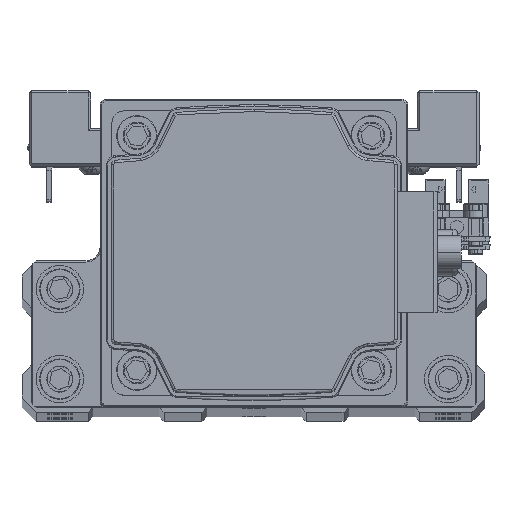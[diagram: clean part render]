
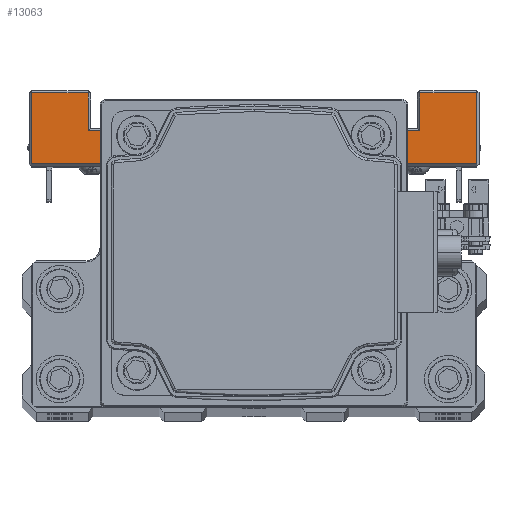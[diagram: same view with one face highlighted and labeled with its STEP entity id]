
A CAD part, top view. The second image highlights one B-rep face of the part: STEP entity #13063.
In plain terms, the highlighted planar face has unit normal (0, 0, 1) as drawn and (1, 0, 0) by its records, which use the part's own axes.
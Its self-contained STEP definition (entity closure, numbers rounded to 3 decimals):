
#538 = VERTEX_POINT ( 'NONE', #28328 ) ;
#734 = EDGE_CURVE ( 'NONE', #19519, #13126, #33862, .T. ) ;
#765 = ORIENTED_EDGE ( 'NONE', *, *, #19905, .T. ) ;
#1375 = CARTESIAN_POINT ( 'NONE',  ( 47., 7.5, 20. ) ) ;
#1677 = ORIENTED_EDGE ( 'NONE', *, *, #26064, .T. ) ;
#1681 = LINE ( 'NONE', #15370, #43762 ) ;
#2669 = LINE ( 'NONE', #16366, #7294 ) ;
#3098 = CARTESIAN_POINT ( 'NONE',  ( 47., 15., -20. ) ) ;
#3524 = DIRECTION ( 'NONE',  ( -1., 0., 0. ) ) ;
#3920 = VECTOR ( 'NONE', #18000, 1000. ) ;
#4194 = CARTESIAN_POINT ( 'NONE',  ( 47., 15., 35. ) ) ;
#4288 = CARTESIAN_POINT ( 'NONE',  ( 47., 8., 47. ) ) ;
#4289 = CARTESIAN_POINT ( 'NONE',  ( 47., 8., -47. ) ) ;
#4856 = CARTESIAN_POINT ( 'NONE',  ( 47., 23., -47. ) ) ;
#4977 = EDGE_CURVE ( 'NONE', #538, #11625, #35044, .T. ) ;
#5412 = ORIENTED_EDGE ( 'NONE', *, *, #24501, .T. ) ;
#5809 = CARTESIAN_POINT ( 'NONE',  ( 47., 23., 35. ) ) ;
#6025 = CARTESIAN_POINT ( 'NONE',  ( 47., 7.5, -47. ) ) ;
#6439 = CARTESIAN_POINT ( 'NONE',  ( 47., 7.5, -35. ) ) ;
#6887 = FACE_OUTER_BOUND ( 'NONE', #41206, .T. ) ;
#7274 = ORIENTED_EDGE ( 'NONE', *, *, #4977, .T. ) ;
#7294 = VECTOR ( 'NONE', #30072, 1000. ) ;
#8368 = AXIS2_PLACEMENT_3D ( 'NONE', #34273, #3524, #17226 ) ;
#8436 = CARTESIAN_POINT ( 'NONE',  ( 47., 23., -35. ) ) ;
#8960 = ORIENTED_EDGE ( 'NONE', *, *, #30992, .T. ) ;
#9555 = ORIENTED_EDGE ( 'NONE', *, *, #10129, .T. ) ;
#10129 = EDGE_CURVE ( 'NONE', #29422, #20900, #2669, .T. ) ;
#10132 = CARTESIAN_POINT ( 'NONE',  ( 47., 15., -35. ) ) ;
#10869 = CARTESIAN_POINT ( 'NONE',  ( 47., 23., -20. ) ) ;
#11105 = LINE ( 'NONE', #24815, #39229 ) ;
#11625 = VERTEX_POINT ( 'NONE', #19251 ) ;
#11935 = VERTEX_POINT ( 'NONE', #8436 ) ;
#13063 = ADVANCED_FACE ( 'NONE', ( #6887 ), #20582, .F. ) ;
#13126 = VERTEX_POINT ( 'NONE', #4194 ) ;
#13171 = DIRECTION ( 'NONE',  ( 0., -1., 0. ) ) ;
#13201 = VERTEX_POINT ( 'NONE', #4856 ) ;
#13432 = DIRECTION ( 'NONE',  ( 0., 0., -1. ) ) ;
#13466 = ORIENTED_EDGE ( 'NONE', *, *, #42615, .T. ) ;
#13546 = EDGE_CURVE ( 'NONE', #20900, #39649, #11105, .T. ) ;
#14642 = VERTEX_POINT ( 'NONE', #5809 ) ;
#14830 = ORIENTED_EDGE ( 'NONE', *, *, #13546, .T. ) ;
#15074 = DIRECTION ( 'NONE',  ( 0., -1., 0. ) ) ;
#15370 = CARTESIAN_POINT ( 'NONE',  ( 47., 7.5, 35. ) ) ;
#15540 = LINE ( 'NONE', #29227, #27330 ) ;
#15554 = CARTESIAN_POINT ( 'NONE',  ( 47., 23., 47. ) ) ;
#16366 = CARTESIAN_POINT ( 'NONE',  ( 47., 7.5, 47. ) ) ;
#16792 = DIRECTION ( 'NONE',  ( 0., 0., 1. ) ) ;
#17226 = DIRECTION ( 'NONE',  ( 0., 0., 1. ) ) ;
#17854 = VECTOR ( 'NONE', #19717, 1000. ) ;
#17868 = CARTESIAN_POINT ( 'NONE',  ( 47., -7.5, 20. ) ) ;
#18000 = DIRECTION ( 'NONE',  ( 0., 0., -1. ) ) ;
#19251 = CARTESIAN_POINT ( 'NONE',  ( 47., 8., -47. ) ) ;
#19519 = VERTEX_POINT ( 'NONE', #10132 ) ;
#19717 = DIRECTION ( 'NONE',  ( 0., 1., 0. ) ) ;
#19905 = EDGE_CURVE ( 'NONE', #44094, #33826, #30495, .T. ) ;
#20081 = VECTOR ( 'NONE', #13171, 1000. ) ;
#20143 = DIRECTION ( 'NONE',  ( 0., -1., 0. ) ) ;
#20582 = PLANE ( 'NONE',  #8368 ) ;
#20900 = VERTEX_POINT ( 'NONE', #4288 ) ;
#23532 = VECTOR ( 'NONE', #20143, 1000. ) ;
#24501 = EDGE_CURVE ( 'NONE', #14642, #29422, #15540, .T. ) ;
#24580 = DIRECTION ( 'NONE',  ( 0., 0., 1. ) ) ;
#24815 = CARTESIAN_POINT ( 'NONE',  ( 47., 8., 20. ) ) ;
#25783 = ORIENTED_EDGE ( 'NONE', *, *, #44266, .T. ) ;
#26064 = EDGE_CURVE ( 'NONE', #39649, #44094, #32120, .T. ) ;
#26183 = ORIENTED_EDGE ( 'NONE', *, *, #38955, .T. ) ;
#27330 = VECTOR ( 'NONE', #42923, 1000. ) ;
#28328 = CARTESIAN_POINT ( 'NONE',  ( 47., 8., -20. ) ) ;
#29055 = DIRECTION ( 'NONE',  ( 0., 1., 0. ) ) ;
#29134 = VECTOR ( 'NONE', #16792, 1000. ) ;
#29227 = CARTESIAN_POINT ( 'NONE',  ( 47., 23., -20. ) ) ;
#29422 = VERTEX_POINT ( 'NONE', #15554 ) ;
#30072 = DIRECTION ( 'NONE',  ( 0., -1., 0. ) ) ;
#30226 = LINE ( 'NONE', #43913, #20081 ) ;
#30314 = VECTOR ( 'NONE', #15074, 1000. ) ;
#30495 = LINE ( 'NONE', #44179, #42961 ) ;
#30992 = EDGE_CURVE ( 'NONE', #11935, #19519, #37204, .T. ) ;
#31148 = ORIENTED_EDGE ( 'NONE', *, *, #43960, .F. ) ;
#32120 = LINE ( 'NONE', #1375, #30314 ) ;
#33826 = VERTEX_POINT ( 'NONE', #41754 ) ;
#33862 = LINE ( 'NONE', #3098, #29134 ) ;
#34273 = CARTESIAN_POINT ( 'NONE',  ( 47., 7.5, -20. ) ) ;
#35044 = LINE ( 'NONE', #4289, #3920 ) ;
#35821 = VECTOR ( 'NONE', #24580, 1000. ) ;
#36794 = LINE ( 'NONE', #6025, #17854 ) ;
#37204 = LINE ( 'NONE', #6439, #23532 ) ;
#38497 = DIRECTION ( 'NONE',  ( 0., 0., -1. ) ) ;
#38955 = EDGE_CURVE ( 'NONE', #13201, #11935, #41617, .T. ) ;
#39229 = VECTOR ( 'NONE', #38497, 1000. ) ;
#39649 = VERTEX_POINT ( 'NONE', #40782 ) ;
#40676 = ORIENTED_EDGE ( 'NONE', *, *, #734, .T. ) ;
#40782 = CARTESIAN_POINT ( 'NONE',  ( 47., 8., 20. ) ) ;
#41206 = EDGE_LOOP ( 'NONE', ( #31148, #7274, #13466, #26183, #8960, #40676, #25783, #5412, #9555, #14830, #1677, #765 ) ) ;
#41617 = LINE ( 'NONE', #10869, #35821 ) ;
#41754 = CARTESIAN_POINT ( 'NONE',  ( 47., -7.5, -20. ) ) ;
#42615 = EDGE_CURVE ( 'NONE', #11625, #13201, #36794, .T. ) ;
#42923 = DIRECTION ( 'NONE',  ( 0., 0., 1. ) ) ;
#42961 = VECTOR ( 'NONE', #13432, 1000. ) ;
#43762 = VECTOR ( 'NONE', #29055, 1000. ) ;
#43913 = CARTESIAN_POINT ( 'NONE',  ( 47., 7.5, -20. ) ) ;
#43960 = EDGE_CURVE ( 'NONE', #538, #33826, #30226, .T. ) ;
#44094 = VERTEX_POINT ( 'NONE', #17868 ) ;
#44179 = CARTESIAN_POINT ( 'NONE',  ( 47., -7.5, -20. ) ) ;
#44266 = EDGE_CURVE ( 'NONE', #13126, #14642, #1681, .T. ) ;
